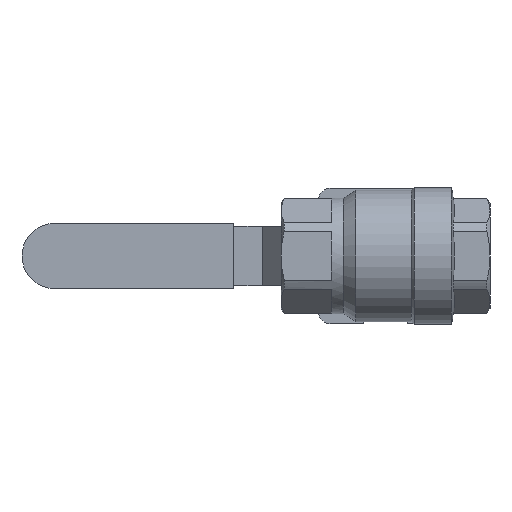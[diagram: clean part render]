
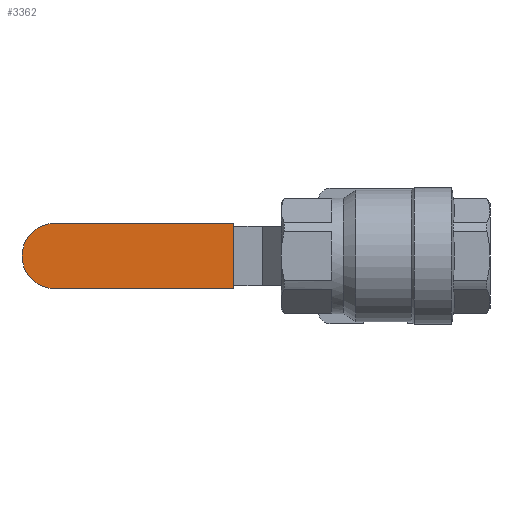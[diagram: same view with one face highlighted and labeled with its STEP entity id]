
A CAD part, front view. The second image highlights one B-rep face of the part: STEP entity #3362.
In plain terms, the highlighted planar face has unit normal (0, -1, 0).
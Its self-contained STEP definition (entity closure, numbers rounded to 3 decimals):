
#108 = CARTESIAN_POINT ( 'NONE',  ( -56., 71., 12. ) ) ;
#223 = DIRECTION ( 'NONE',  ( 1., 0., 0. ) ) ;
#373 = EDGE_CURVE ( 'NONE', #4025, #4043, #2644, .T. ) ;
#939 = CARTESIAN_POINT ( 'NONE',  ( -134., 71., 12. ) ) ;
#946 = VECTOR ( 'NONE', #223, 1000. ) ;
#1265 = DIRECTION ( 'NONE',  ( 1., 0., 0. ) ) ;
#1316 = AXIS2_PLACEMENT_3D ( 'NONE', #2208, #4775, #2566 ) ;
#1347 = CARTESIAN_POINT ( 'NONE',  ( -56., 71., 12. ) ) ;
#1633 = CARTESIAN_POINT ( 'NONE',  ( -122., 71., -12. ) ) ;
#1663 = VECTOR ( 'NONE', #4329, 1000. ) ;
#1672 = CARTESIAN_POINT ( 'NONE',  ( -122., 71., 12. ) ) ;
#2175 = DIRECTION ( 'NONE',  ( 0., 1., 0. ) ) ;
#2208 = CARTESIAN_POINT ( 'NONE',  ( -122., 71., 0. ) ) ;
#2240 = ORIENTED_EDGE ( 'NONE', *, *, #2509, .T. ) ;
#2509 = EDGE_CURVE ( 'NONE', #2706, #4043, #4402, .T. ) ;
#2566 = DIRECTION ( 'NONE',  ( 0., 0., 1. ) ) ;
#2644 = LINE ( 'NONE', #1347, #1663 ) ;
#2706 = VERTEX_POINT ( 'NONE', #1633 ) ;
#2728 = CARTESIAN_POINT ( 'NONE',  ( -56., 71., -12. ) ) ;
#3120 = CARTESIAN_POINT ( 'NONE',  ( -134., 71., -12. ) ) ;
#3197 = ORIENTED_EDGE ( 'NONE', *, *, #3588, .T. ) ;
#3251 = CARTESIAN_POINT ( 'NONE',  ( -134., 71., 12. ) ) ;
#3352 = ORIENTED_EDGE ( 'NONE', *, *, #3940, .F. ) ;
#3362 = ADVANCED_FACE ( 'NONE', ( #4282 ), #4394, .F. ) ;
#3411 = AXIS2_PLACEMENT_3D ( 'NONE', #3251, #2175, #4752 ) ;
#3428 = VECTOR ( 'NONE', #1265, 1000. ) ;
#3571 = CIRCLE ( 'NONE', #1316, 12. ) ;
#3588 = EDGE_CURVE ( 'NONE', #4116, #2706, #3571, .T. ) ;
#3940 = EDGE_CURVE ( 'NONE', #4116, #4025, #4026, .T. ) ;
#4025 = VERTEX_POINT ( 'NONE', #108 ) ;
#4026 = LINE ( 'NONE', #939, #946 ) ;
#4043 = VERTEX_POINT ( 'NONE', #2728 ) ;
#4116 = VERTEX_POINT ( 'NONE', #1672 ) ;
#4153 = ORIENTED_EDGE ( 'NONE', *, *, #373, .F. ) ;
#4258 = EDGE_LOOP ( 'NONE', ( #3352, #3197, #2240, #4153 ) ) ;
#4282 = FACE_OUTER_BOUND ( 'NONE', #4258, .T. ) ;
#4329 = DIRECTION ( 'NONE',  ( 0., 0., -1. ) ) ;
#4394 = PLANE ( 'NONE',  #3411 ) ;
#4402 = LINE ( 'NONE', #3120, #3428 ) ;
#4752 = DIRECTION ( 'NONE',  ( 0., 0., 1. ) ) ;
#4775 = DIRECTION ( 'NONE',  ( 0., -1., 0. ) ) ;
